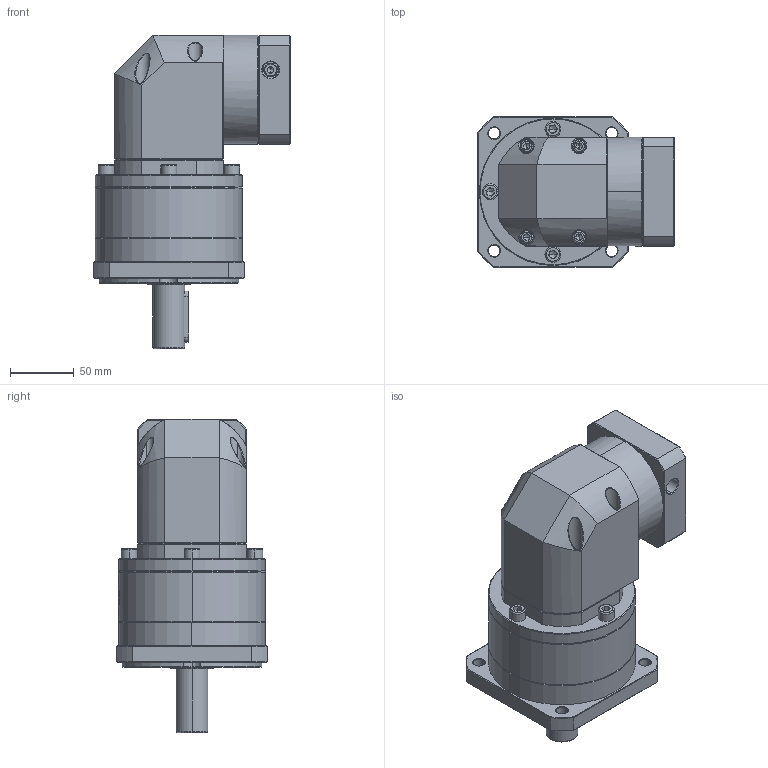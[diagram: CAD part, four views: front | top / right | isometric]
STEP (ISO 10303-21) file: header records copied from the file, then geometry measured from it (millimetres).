
FILE_DESCRIPTION (( 'STEP AP214' ), '1' );
FILE_NAME ('ZFR120A-D25-L2-P2-14-50-70-M4.step', '2023-08-27T09:15:18', ( '' ), ( '' ), 'SwSTEP 2.0', 'SolidWorks 2016', '' );
FILE_SCHEMA (( 'AUTOMOTIVE_DESIGN' ));
Length unit declared in the file: millimetre
Products named in the file (1): ZFR120A-D25-L2-P2-14-50-70-M4
Bounding box: 154.1 x 118 x 245 mm (x, y, z)
Volume: 1879499.1 mm3; surface area: 169924.5 mm2
Topology: 6 solids, 6 shells, 2243 faces, 5814 edges, 3681 vertices
Faces by surface type: plane 1147, bspline 431, cylinder 330, cone 321, torus 14
Entity records: 114281 total; most frequent: CARTESIAN_POINT 39696, ORIENTED_EDGE 11536, DIRECTION 8670, EDGE_CURVE 5768, VERTEX_POINT 3681, VECTOR 3184, LINE 3184, AXIS2_PLACEMENT_3D 2743
